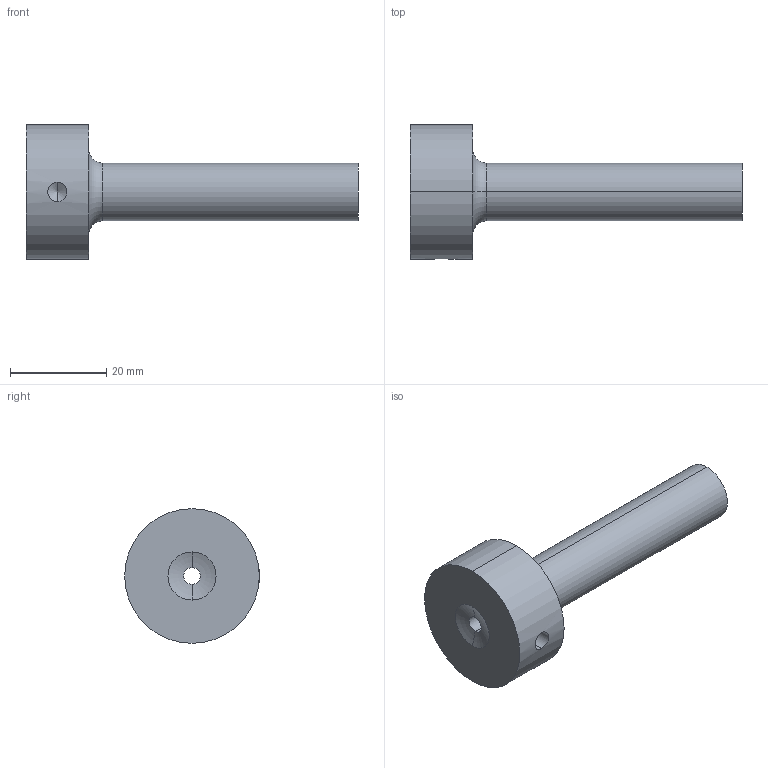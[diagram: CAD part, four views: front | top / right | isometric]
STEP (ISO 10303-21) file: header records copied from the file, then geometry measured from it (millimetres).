
FILE_DESCRIPTION (( 'STEP AP214' ), '1' );
FILE_NAME ('BR511 12X56X3,5X15,5.STEP', '2019-12-11T08:22:00', ( 'August' ), ( '' ), 'SwSTEP 2.0', 'SolidWorks 2018', '' );
FILE_SCHEMA (( 'AUTOMOTIVE_DESIGN' ));
Length unit declared in the file: millimetre
Products named in the file (1): BR511 12X56X3,5X15,5
Bounding box: 69 x 28 x 28 mm (x, y, z)
Volume: 13084.7 mm3; surface area: 5494.2 mm2
Topology: 1 solids, 1 shells, 17 faces, 36 edges, 21 vertices
Faces by surface type: cylinder 6, cone 4, torus 4, plane 3
Entity records: 538 total; most frequent: CARTESIAN_POINT 127, DIRECTION 90, ORIENTED_EDGE 68, AXIS2_PLACEMENT_3D 40, EDGE_CURVE 34, CIRCLE 22, EDGE_LOOP 21, VERTEX_POINT 21
